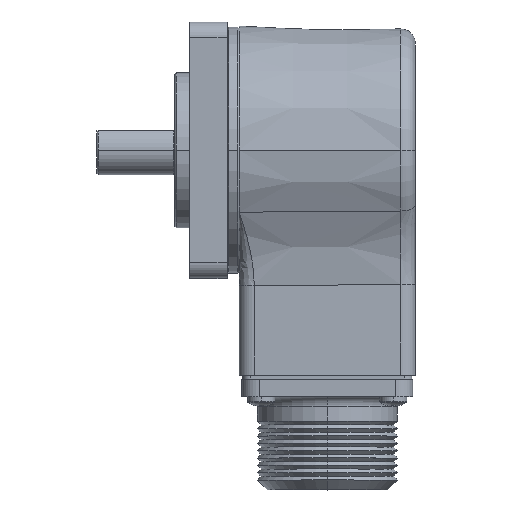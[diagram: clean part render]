
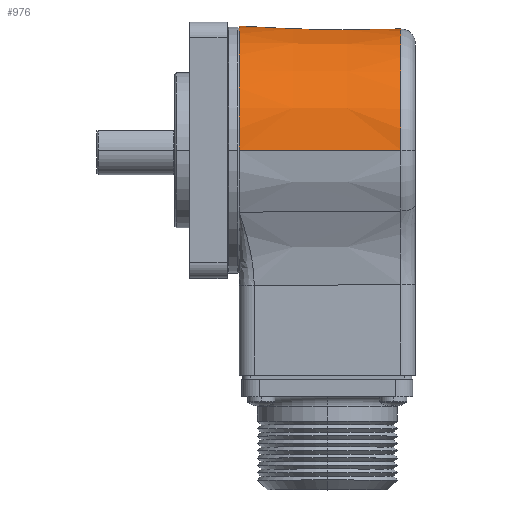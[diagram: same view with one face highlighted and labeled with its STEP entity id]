
A CAD part, top view. The second image highlights one B-rep face of the part: STEP entity #976.
In plain terms, the highlighted conical face has half-angle 1 degrees and reference radius 25.4 mm.
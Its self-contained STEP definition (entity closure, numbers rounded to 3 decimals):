
#474 = AXIS2_PLACEMENT_3D ( 'NONE', #6974, #795, #7928 ) ;
#795 = DIRECTION ( 'NONE',  ( -1., 0., 0. ) ) ;
#976 = ADVANCED_FACE ( 'NONE', ( #11680 ), #11377, .T. ) ;
#1907 = DIRECTION ( 'NONE',  ( 1., 0., 0. ) ) ;
#2007 = CARTESIAN_POINT ( 'NONE',  ( 13.2, 0., 25.4 ) ) ;
#3114 = DIRECTION ( 'NONE',  ( 0., 0., 1. ) ) ;
#3611 = LINE ( 'NONE', #2007, #5958 ) ;
#3821 = ORIENTED_EDGE ( 'NONE', *, *, #3945, .T. ) ;
#3921 = CIRCLE ( 'NONE', #4075, 25.4 ) ;
#3945 = EDGE_CURVE ( 'NONE', #8016, #8909, #9125, .T. ) ;
#3948 = EDGE_CURVE ( 'NONE', #5269, #8016, #9422, .T. ) ;
#3966 = EDGE_CURVE ( 'NONE', #8909, #4856, #3921, .T. ) ;
#4009 = EDGE_CURVE ( 'NONE', #5269, #4856, #3611, .T. ) ;
#4075 = AXIS2_PLACEMENT_3D ( 'NONE', #7967, #1907, #8935 ) ;
#4640 = ORIENTED_EDGE ( 'NONE', *, *, #3948, .T. ) ;
#4708 = CARTESIAN_POINT ( 'NONE',  ( 13.2, 0., 25.4 ) ) ;
#4856 = VERTEX_POINT ( 'NONE', #4708 ) ;
#5038 = CARTESIAN_POINT ( 'NONE',  ( 46.252, 0., -24.823 ) ) ;
#5178 = DIRECTION ( 'NONE',  ( -1., 0., 0. ) ) ;
#5269 = VERTEX_POINT ( 'NONE', #9224 ) ;
#5958 = VECTOR ( 'NONE', #9020, 1000. ) ;
#6586 = VECTOR ( 'NONE', #7894, 1000. ) ;
#6974 = CARTESIAN_POINT ( 'NONE',  ( 46.252, 0., 0. ) ) ;
#7548 = ORIENTED_EDGE ( 'NONE', *, *, #4009, .F. ) ;
#7894 = DIRECTION ( 'NONE',  ( -1., 0., -0.017 ) ) ;
#7928 = DIRECTION ( 'NONE',  ( 0., 0., -1. ) ) ;
#7967 = CARTESIAN_POINT ( 'NONE',  ( 13.2, 0., 0. ) ) ;
#8016 = VERTEX_POINT ( 'NONE', #5038 ) ;
#8160 = EDGE_LOOP ( 'NONE', ( #4640, #3821, #8766, #7548 ) ) ;
#8766 = ORIENTED_EDGE ( 'NONE', *, *, #3966, .T. ) ;
#8837 = CARTESIAN_POINT ( 'NONE',  ( 13.2, 0., -25.4 ) ) ;
#8840 = CARTESIAN_POINT ( 'NONE',  ( 13.2, 0., -25.4 ) ) ;
#8909 = VERTEX_POINT ( 'NONE', #8837 ) ;
#8935 = DIRECTION ( 'NONE',  ( 0., 0., 1. ) ) ;
#9020 = DIRECTION ( 'NONE',  ( -1., 0., 0.017 ) ) ;
#9125 = LINE ( 'NONE', #8840, #6586 ) ;
#9224 = CARTESIAN_POINT ( 'NONE',  ( 46.252, 0., 24.823 ) ) ;
#9262 = AXIS2_PLACEMENT_3D ( 'NONE', #10912, #5178, #3114 ) ;
#9422 = CIRCLE ( 'NONE', #474, 24.823 ) ;
#10912 = CARTESIAN_POINT ( 'NONE',  ( 13.2, 0., 0. ) ) ;
#11377 = CONICAL_SURFACE ( 'NONE', #9262, 25.4, 0.017 ) ;
#11680 = FACE_OUTER_BOUND ( 'NONE', #8160, .T. ) ;
